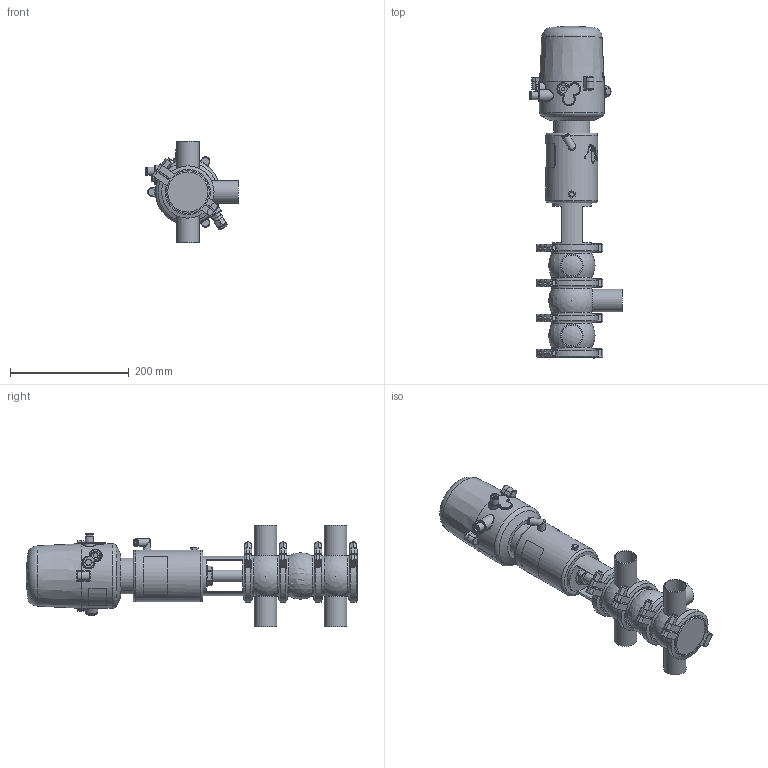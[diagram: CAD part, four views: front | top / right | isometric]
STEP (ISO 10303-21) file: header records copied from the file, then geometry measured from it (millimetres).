
FILE_DESCRIPTION (( 'STEP AP214' ), '1' );
FILE_NAME ('INNOVA L W W OD 1½ T1 AS NC & C-TOP S_10.241.16.0064.STEP', '2024-08-06T12:22:05', ( '' ), ( '' ), 'SwSTEP 2.0', 'SolidWorks 2023', '' );
FILE_SCHEMA (( 'AUTOMOTIVE_DESIGN' ));
Length unit declared in the file: millimetre
Products named in the file (9): 10.240.15.0010_DN 040; 10.240.15.0001_DN 040; 10.241.15.0001_DIN 040; 10.426.15.0001_C-TOP S - 1 EV; 10.240.15.0007_OD 1½"; 10.240.15.0006_OD 1½"; INNOVA L W W OD 1½ T1 AS NC & C-TOP S_10.241.16.0064; 10.240.15.0017_Estàndard; 10.240.15.0014_T1 AS P180
Assembly tree (12 placements, depth 2):
  INNOVA L W W OD 1½ T1 AS NC & C-TOP S_10.241.16.0064
    10.240.15.0007_OD 1½"  x2
    10.240.15.0006_OD 1½"
    10.240.15.0010_DN 040
    10.240.15.0014_T1 AS P180
    10.240.15.0017_Estàndard
    10.426.15.0001_C-TOP S - 1 EV
    10.240.15.0001_DN 040  x4
    10.241.15.0001_DIN 040
Bounding box: 156 x 558.07 x 170 mm (x, y, z)
Volume: 3198750.2 mm3; surface area: 377407.6 mm2
Topology: 13 solids, 13 shells, 1315 faces, 3197 edges, 2121 vertices
Faces by surface type: plane 479, cylinder 407, cone 221, bspline 160, torus 36, sphere 12
Full cylindrical faces by diameter (mm): 0.371 x17, 0.512 x16, 0.658 x16, 0.795 x16, 0.94 x15, 1.098 x15, 1.241 x13, 1.382 x13, 1.523 x11, 1.669 x10, 2.201 x1, 4 x2, 5.5 x2, 6 x2, 6.15 x1, 8 x10, 8.5 x1, 10 x1, 10.5 x1, 11 x2, 12.5 x3, 13 x2, 13.5 x2, 16 x1, 17 x3, 20 x3, 20.5 x1, 22 x2, 31 x1, 34.5 x3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
Entity records: 57023 total; most frequent: CARTESIAN_POINT 26677, ORIENTED_EDGE 4516, DIRECTION 3677, EDGE_CURVE 2258, VERTEX_POINT 1609, EDGE_LOOP 1579, AXIS2_PLACEMENT_3D 1510, FACE_OUTER_BOUND 1339
